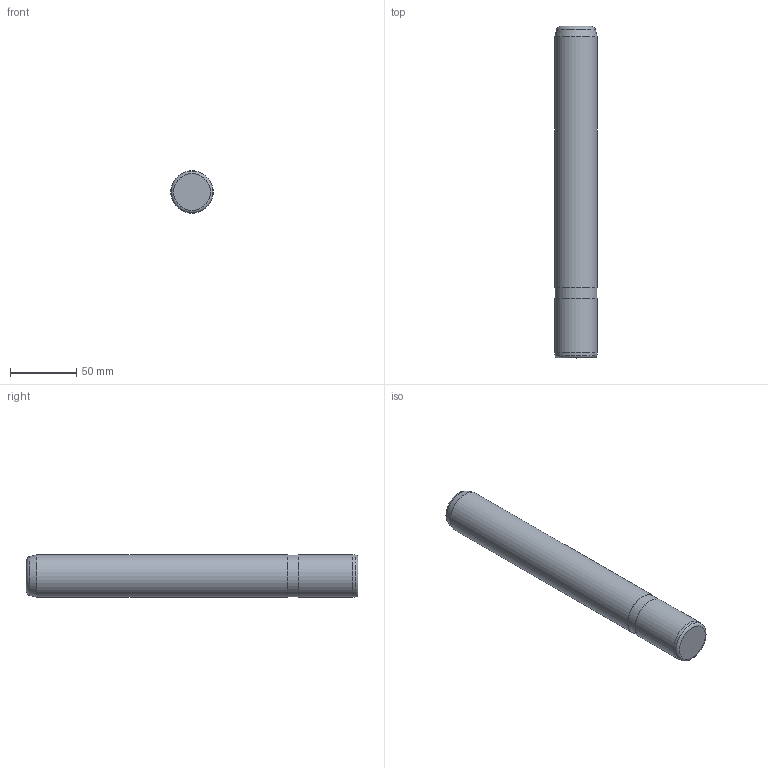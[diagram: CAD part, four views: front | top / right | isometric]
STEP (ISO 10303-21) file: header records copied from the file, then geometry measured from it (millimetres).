
FILE_DESCRIPTION( ( 'STEP AP203' ), '1' );
FILE_NAME( 'D:/Cuma/26 04 2010/D15/D15_32250.step', '2003-02-25T14:53:17', ( ' ' ), ( ' ' ), 'XStep 1.0', ' ', ' ' );
FILE_SCHEMA( ( 'CONFIG_CONTROL_DESIGN' ) );
Length unit declared in the file: metre
Products named in the file (1): 1
Bounding box: 32 x 250 x 32 mm (x, y, z)
Volume: 199750.4 mm3; surface area: 26359 mm2
Topology: 1 solids, 1 shells, 11 faces, 17 edges, 10 vertices
Faces by surface type: plane 4, cylinder 3, torus 2, cone 2
Full cylindrical faces by diameter (mm): 31.5 x1, 32 x2
Entity records: 259 total; most frequent: DIRECTION 44, CARTESIAN_POINT 32, AXIS2_PLACEMENT_3D 22, EDGE_LOOP 20, ORIENTED_EDGE 20, FACE_OUTER_BOUND 16, ADVANCED_FACE 11, EDGE_CURVE 10
